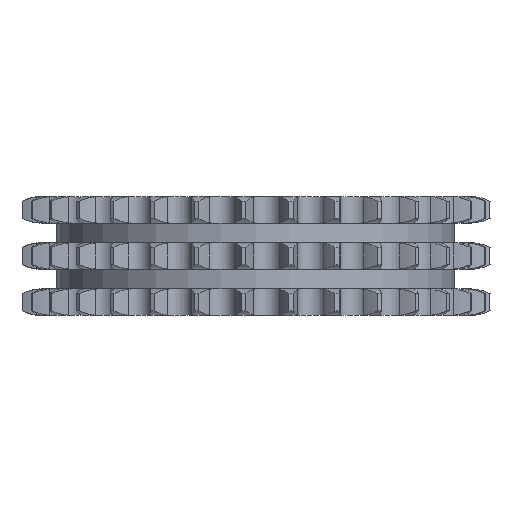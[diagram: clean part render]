
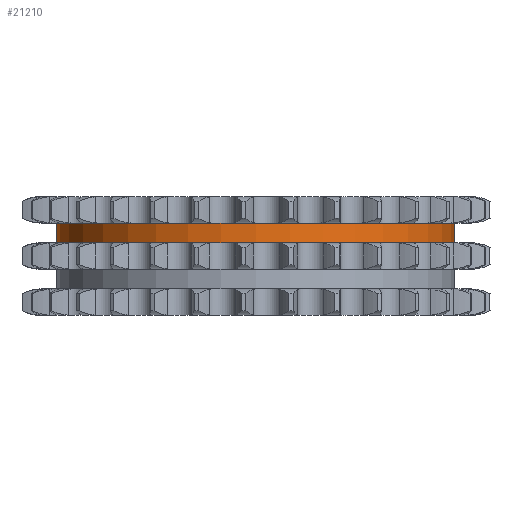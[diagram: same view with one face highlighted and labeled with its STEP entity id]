
A CAD part, left-side view. The second image highlights one B-rep face of the part: STEP entity #21210.
In plain terms, the highlighted cylindrical face has radius 83.15 mm (diameter 166.3 mm), a partial arc.
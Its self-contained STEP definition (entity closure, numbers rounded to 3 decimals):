
#4185=DIRECTION('',(0.,0.,-1.));
#4186=VECTOR('',#4185,8.25);
#4187=CARTESIAN_POINT('',(0.,83.15,13.8));
#4188=LINE('',#4187,#4186);
#4192=CARTESIAN_POINT('',(0.,0.,13.8));
#4193=DIRECTION('',(0.,0.,1.));
#4194=DIRECTION('',(0.,1.,0.));
#4195=AXIS2_PLACEMENT_3D('',#4192,#4193,#4194);
#4200=DIRECTION('',(0.,0.,-1.));
#4201=VECTOR('',#4200,8.25);
#4202=CARTESIAN_POINT('',(0.,-83.15,13.8));
#4203=LINE('',#4202,#4201);
#4207=CARTESIAN_POINT('',(0.,0.,5.55));
#4208=DIRECTION('',(0.,0.,1.));
#4209=DIRECTION('',(0.,1.,0.));
#4210=AXIS2_PLACEMENT_3D('',#4207,#4208,#4209);
#16771=CARTESIAN_POINT('',(0.,83.15,13.8));
#16772=CARTESIAN_POINT('',(0.,83.15,5.55));
#16773=VERTEX_POINT('',#16771);
#16774=VERTEX_POINT('',#16772);
#16775=CARTESIAN_POINT('',(0.,-83.15,13.8));
#16776=CARTESIAN_POINT('',(0.,-83.15,5.55));
#16777=VERTEX_POINT('',#16775);
#16778=VERTEX_POINT('',#16776);
#21198=CARTESIAN_POINT('',(0.,0.,15.18));
#21199=DIRECTION('',(0.,0.,-1.));
#21200=DIRECTION('',(0.,-1.,0.));
#21201=AXIS2_PLACEMENT_3D('',#21198,#21199,#21200);
#21202=CYLINDRICAL_SURFACE('',#21201,83.15);
#21203=ORIENTED_EDGE('',*,*,#21188,.F.);
#21204=ORIENTED_EDGE('',*,*,#21178,.T.);
#21205=ORIENTED_EDGE('',*,*,#21192,.T.);
#21207=ORIENTED_EDGE('',*,*,#21206,.F.);
#21208=EDGE_LOOP('',(#21203,#21204,#21205,#21207));
#21209=FACE_OUTER_BOUND('',#21208,.F.);
#21210=ADVANCED_FACE('',(#21209),#21202,.T.);
#4196=CIRCLE('',#4195,83.15);
#4211=CIRCLE('',#4210,83.15);
#21178=EDGE_CURVE('',#16773,#16777,#4196,.T.);
#21188=EDGE_CURVE('',#16773,#16774,#4188,.T.);
#21192=EDGE_CURVE('',#16777,#16778,#4203,.T.);
#21206=EDGE_CURVE('',#16774,#16778,#4211,.T.);
